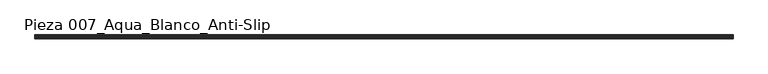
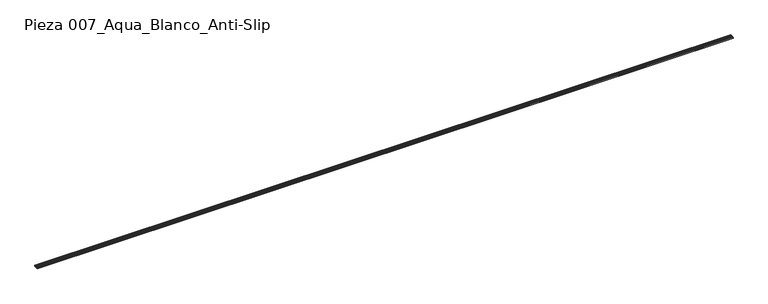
"""IFC4 building model written with IfcOpenShell, lengths in millimetres: slab geometry, ROSA GRES_007 : Pieza 007_Aqua_Blanco_Anti-Slip."""

from ifc_helpers import new_model, si_unit, point, frame, frame_2d, origin, place, context, project, spatial, polyline, circle_curve, trimmed, segment, composite_curve, outline, extrude, source, transform, mapped, element, save


def pieza_007_aqua_blanco_anti_slip_f325b0ed(model_context):
    return source(origin(), model_context, "Body", "SweptSolid", [
        extrude(outline(composite_curve([segment(polyline([(14.3742659, 174.3159971), (0.6896004, 173.202129), (-0.0710994, 182.547869)]), True, "CONTINUOUS"), segment(trimmed(circle_curve(frame_2d((15.1536138, 183.7870899)), 15.2750633), [point((-0.0710994, 182.547869))], [point((12.7748841, 198.875801))], False, "CARTESIAN"), True, "CONTINUOUS"), segment(polyline([(12.7748841, 198.875801), (16.9364731, 199.1796191)]), True, "CONTINUOUS"), segment(trimmed(circle_curve(frame_2d((20.3008643, 202.7650351)), 4.9167404), [point((16.9364731, 199.1796191))], [point((24.7247274, 200.6193952))], True, "CARTESIAN"), True, "CONTINUOUS"), segment(trimmed(circle_curve(frame_2d((27.3971937, 201.142641)), 2.7232081), [point((24.7247274, 200.6193952))], [point((29.9345538, 200.1538709))], True, "CARTESIAN"), True, "CONTINUOUS"), segment(polyline([(29.9345538, 200.1538709), (33.8762309, 200.4746837), (37.1820416, 176.172444)]), True, "CONTINUOUS"), segment(trimmed(circle_curve(frame_2d((25.9545763, 173.0767428)), 11.6464304), [point((37.1820416, 176.172444))], [point((14.3742659, 174.3159971))], True, "CARTESIAN"), True, "CONTINUOUS")], self_intersect=False)), frame((0.0, 0.0, 0.0), z_axis=(1.0, 0.0, 0.0), x_axis=(0.0, 1.0, 0.0)), (0.0, 0.0, 1.0), 20530.0265886),
        extrude(outline(composite_curve([segment(polyline([(71.8498608, 178.9942432), (37.1820416, 176.172444), (33.8762309, 200.4746837)]), True, "CONTINUOUS"), segment(trimmed(circle_curve(frame_2d((106.9597263, 233.2212806)), 80.084561), [point((33.8762309, 200.4746837))], [point((40.9402045, 187.8896178))], True, "CARTESIAN"), True, "CONTINUOUS"), segment(trimmed(circle_curve(frame_2d((43.5817022, 189.3117604)), 3.0), [point((40.9402045, 187.8896178))], [point((43.8250834, 186.3216491))], True, "CARTESIAN"), True, "CONTINUOUS"), segment(polyline([(43.8250834, 186.3216491), (61.867532, 187.7902205)]), True, "CONTINUOUS"), segment(trimmed(circle_curve(frame_2d((57.0579989, 199.0821231)), 12.2734948), [point((61.867532, 187.7902205))], [point((69.3023399, 198.236672))], True, "CARTESIAN"), True, "CONTINUOUS"), segment(polyline([(69.3023399, 198.236672), (69.6579726, 203.3871621), (73.3820924, 203.6902881)]), True, "CONTINUOUS"), segment(trimmed(circle_curve(frame_2d((76.8218788, 206.722806)), 4.5856619), [point((73.3820924, 203.6902881))], [point((81.0271834, 204.8942251))], True, "CARTESIAN"), True, "CONTINUOUS"), segment(trimmed(circle_curve(frame_2d((84.8780848, 207.3839748)), 4.5856619), [point((81.0271834, 204.8942251))], [point((89.0833894, 205.555394))], True, "CARTESIAN"), True, "CONTINUOUS"), segment(trimmed(circle_curve(frame_2d((92.9342908, 208.0451437)), 4.5856619), [point((89.0833894, 205.555394))], [point((97.1292049, 206.1928503))], True, "CARTESIAN"), True, "CONTINUOUS"), segment(trimmed(circle_curve(frame_2d((100.9933064, 209.1504161)), 4.8660534), [point((97.1292049, 206.1928503))], [point((105.2742048, 206.836894))], True, "CARTESIAN"), True, "CONTINUOUS"), segment(trimmed(circle_curve(frame_2d((109.1074243, 209.7932705)), 4.8408403), [point((105.2742048, 206.836894))], [point((113.0660814, 207.0070959))], True, "CARTESIAN"), True, "CONTINUOUS"), segment(polyline([(113.0660814, 207.0070959), (115.3491545, 207.1930072), (115.5338707, 204.9236084), (117.4809059, 205.0820876), (119.2900344, 182.8556525), (108.342302, 181.9645582)]), True, "CONTINUOUS"), segment(trimmed(circle_curve(frame_2d((91.1625174, 167.3774726)), 22.5372595), [point((108.342302, 181.9645582))], [point((71.8498608, 178.9942432))], True, "CARTESIAN"), True, "CONTINUOUS")], self_intersect=False)), frame((0.0, 0.0, 0.0), z_axis=(1.0, 0.0, 0.0), x_axis=(0.0, 1.0, 0.0)), (0.0, 0.0, 1.0), 20530.0265886),
    ])


if __name__ == "__main__":
    model = new_model("IFC4")
    model_context = context("Model", 3, world=origin())
    ifc_project = project(units=[si_unit("LENGTHUNIT", "METRE", prefix="MILLI")], contexts=[model_context])
    site = spatial("IfcSite", under=ifc_project)
    building = spatial("IfcBuilding", under=site)
    placement = place(None, origin())
    pieza_007_aqua_blanco_anti_slip_shape = pieza_007_aqua_blanco_anti_slip_f325b0ed(model_context)
    element("IfcSlab", 1, ObjectType="ROSA GRES_007 : Pieza 007_Aqua_Blanco_Anti-Slip", at=placement, inside=building, context=model_context, shape_type="MappedRepresentation", body=[
        mapped(pieza_007_aqua_blanco_anti_slip_shape, transform((0.0, 0.0, 0.0), x_axis=(1.0, 0.0, 0.0), y_axis=(0.0, 1.0, 0.0), z_axis=(0.0, 0.0, 1.0))),
    ])
    save(model, "model.ifc")
